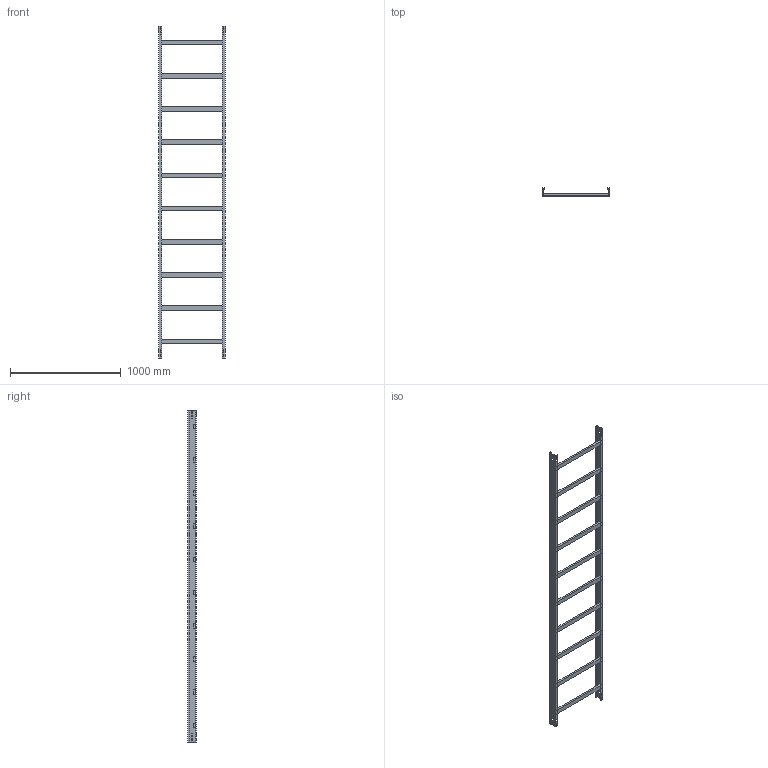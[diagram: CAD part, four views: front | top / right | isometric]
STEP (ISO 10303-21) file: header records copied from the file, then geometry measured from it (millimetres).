
FILE_DESCRIPTION (( 'STEP AP214' ), '1' );
FILE_NAME ('01B3C600.step', '2025-02-21T16:00:58', ( '' ), ( '' ), 'SwSTEP 2.0', 'SolidWorks 2023', '' );
FILE_SCHEMA (( 'AUTOMOTIVE_DESIGN' ));
Length unit declared in the file: millimetre
Products named in the file (3): TRAVERSINO_600; 01B3C600; LONGH.H75
Assembly tree (12 placements, depth 2):
  01B3C600
    LONGH.H75  x2
    TRAVERSINO_600  x10
Bounding box: 600 x 75 x 3000 mm (x, y, z)
Volume: 7174672 mm3; surface area: 2151856 mm2
Topology: 12 solids, 12 shells, 144 faces, 360 edges, 240 vertices
Faces by surface type: plane 144
Entity records: 1696 total; most frequent: CARTESIAN_POINT 283, ORIENTED_EDGE 264, DIRECTION 258, LINE 132, EDGE_CURVE 132, VECTOR 132, VERTEX_POINT 88, EDGE_LOOP 64
